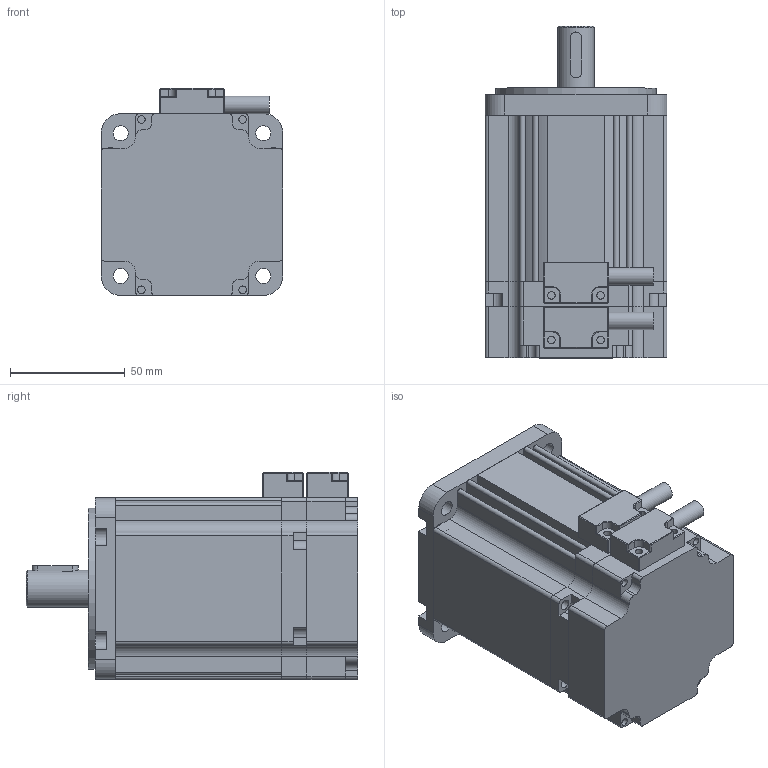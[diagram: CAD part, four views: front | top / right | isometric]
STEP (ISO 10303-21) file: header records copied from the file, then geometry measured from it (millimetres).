
FILE_DESCRIPTION(/* description */ ('Unknown'),/* implementation_level */ '2;1');
FILE_NAME(/* name */ 'CS80-05C8AE組立',/* time_stamp */ '2021-05-06T13:29:22+08:00',/* author */ ('Unknown'),/* organization */ ('Unknown'),/* preprocessor_version */ 'ST-DEVELOPER v16.7',/* originating_system */ 'DEX',/* authorisation */ $);
FILE_SCHEMA (('AUTOMOTIVE_DESIGN {1 0 10303 214 3 1 1}'));
Length unit declared in the file: millimetre
Products named in the file (7): CS80-05C8AEｲﾕ; 末怎垢; 後鴮; 中; 前痘; 軸; ･Xｽu官
Assembly tree (7 placements, depth 2):
  CS80-05C8AEｲﾕ
    末怎垢
    後鴮
    中
    前痘
    軸
    ･Xｽu官  x2
Bounding box: 79.1 x 144.4 x 90.1 mm (x, y, z)
Volume: 613317.9 mm3; surface area: 107430 mm2
Topology: 7 solids, 7 shells, 356 faces, 949 edges, 622 vertices
Faces by surface type: plane 207, cylinder 136, cone 13
Full cylindrical faces by diameter (mm): 3.242 x8, 3.3 x8, 4.5 x8, 6.5 x4, 7.6 x2, 16 x1, 17 x1, 18 x2, 25 x1, 70 x1
Entity records: 10855 total; most frequent: DIRECTION 1657, CARTESIAN_POINT 1621, ORIENTED_EDGE 1540, EDGE_CURVE 770, AXIS2_PLACEMENT_3D 577, VERTEX_POINT 527, LINE 503, VECTOR 503
